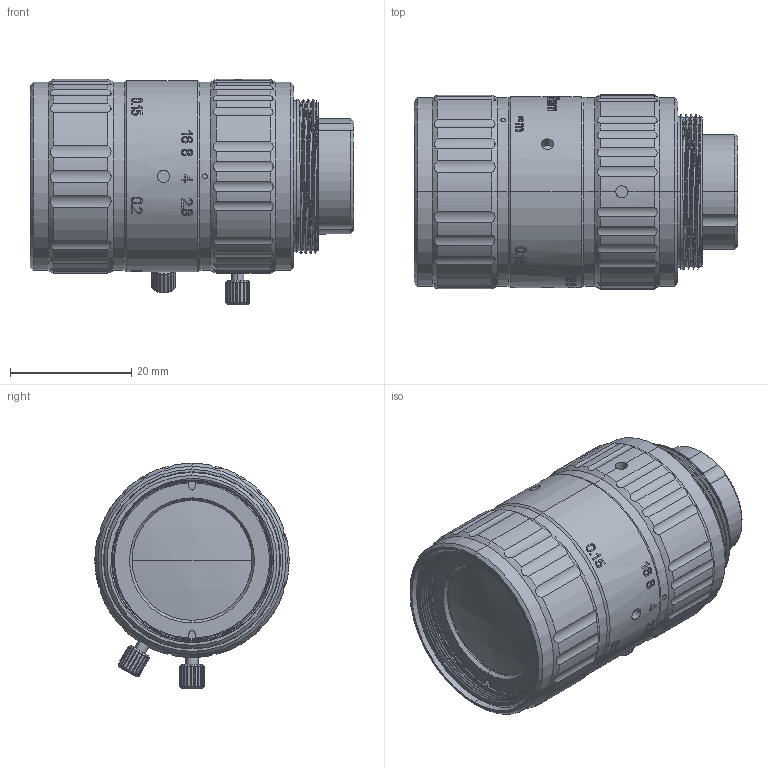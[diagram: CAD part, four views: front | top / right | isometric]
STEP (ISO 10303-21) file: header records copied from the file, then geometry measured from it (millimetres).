
FILE_DESCRIPTION (( 'STEP AP203' ), '1' );
FILE_NAME ('12.STEP', '2023-02-06T11:51:13', ( '' ), ( '' ), 'SwSTEP 2.0', 'SolidWorks 2021', '' );
FILE_SCHEMA (( 'CONFIG_CONTROL_DESIGN' ));
Length unit declared in the file: millimetre
Products named in the file (4): F23-12mm-C; SNZFS-M1.6-3; 12; 坶踡隊1
Assembly tree (6 placements, depth 2):
  12
    F23-12mm-C
    坶踡隊1  x2
    SNZFS-M1.6-3  x3
Bounding box: 53.4 x 31.99 x 37.15 mm (x, y, z)
Volume: 35422.3 mm3; surface area: 8518.6 mm2
Topology: 6 solids, 6 shells, 983 faces, 2566 edges, 1667 vertices
Faces by surface type: plane 368, bspline 288, cylinder 262, cone 61, sphere 4
Entity records: 58082 total; most frequent: CARTESIAN_POINT 40237, ORIENTED_EDGE 4312, DIRECTION 2445, EDGE_CURVE 2156, VERTEX_POINT 1415, B_SPLINE_CURVE_WITH_KNOTS 1138, AXIS2_PLACEMENT_3D 930, EDGE_LOOP 885
